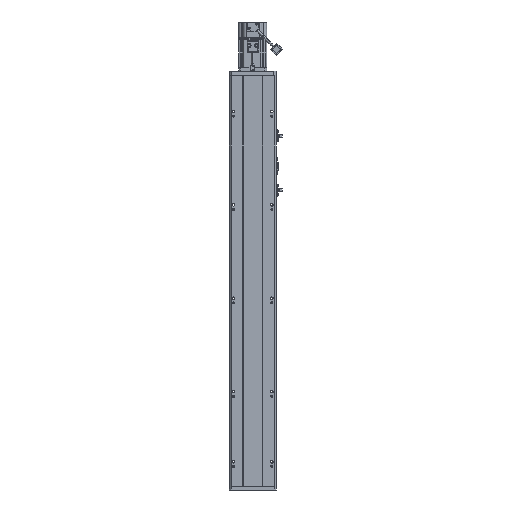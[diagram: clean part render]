
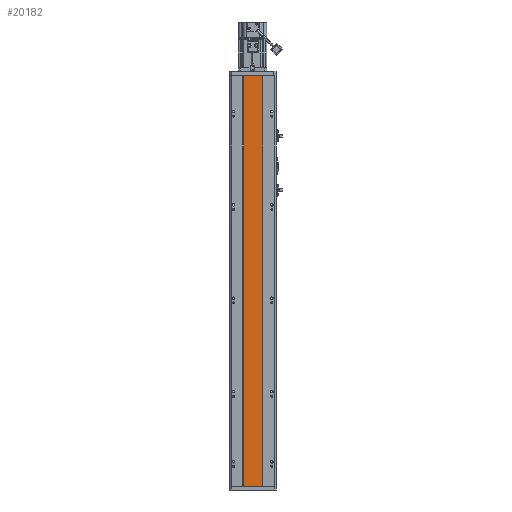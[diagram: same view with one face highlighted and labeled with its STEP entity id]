
A CAD part, front view. The second image highlights one B-rep face of the part: STEP entity #20182.
In plain terms, the highlighted planar face has unit normal (0, -1, 0).
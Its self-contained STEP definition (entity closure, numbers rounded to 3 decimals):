
#111 = CARTESIAN_POINT ( 'NONE',  ( 20., 0., 0. ) ) ;
#1273 = DIRECTION ( 'NONE',  ( 0., 0., 1. ) ) ;
#1688 = VECTOR ( 'NONE', #1273, 1000. ) ;
#7958 = DIRECTION ( 'NONE',  ( -1., 0., 0. ) ) ;
#8441 = DIRECTION ( 'NONE',  ( -1., 0., 0. ) ) ;
#12191 = CARTESIAN_POINT ( 'NONE',  ( 20., 0., 0. ) ) ;
#20182 = ADVANCED_FACE ( 'NONE', ( #34582 ), #30771, .F. ) ;
#22240 = VERTEX_POINT ( 'NONE', #91407 ) ;
#24189 = DIRECTION ( 'NONE',  ( -1., 0., 0. ) ) ;
#24594 = VECTOR ( 'NONE', #68178, 1000. ) ;
#24864 = VERTEX_POINT ( 'NONE', #76056 ) ;
#26778 = CARTESIAN_POINT ( 'NONE',  ( -20., 0., -878.5 ) ) ;
#28261 = ORIENTED_EDGE ( 'NONE', *, *, #36743, .F. ) ;
#30771 = PLANE ( 'NONE',  #46059 ) ;
#33771 = LINE ( 'NONE', #111, #71310 ) ;
#34187 = ORIENTED_EDGE ( 'NONE', *, *, #53576, .T. ) ;
#34582 = FACE_OUTER_BOUND ( 'NONE', #87344, .T. ) ;
#36743 = EDGE_CURVE ( 'NONE', #24864, #88160, #94971, .T. ) ;
#37475 = VECTOR ( 'NONE', #8441, 1000. ) ;
#38635 = CARTESIAN_POINT ( 'NONE',  ( 20., 0., -878.5 ) ) ;
#43861 = EDGE_CURVE ( 'NONE', #88160, #22240, #59805, .T. ) ;
#44544 = EDGE_CURVE ( 'NONE', #71278, #22240, #33771, .T. ) ;
#45687 = CARTESIAN_POINT ( 'NONE',  ( 20., 0., -878.5 ) ) ;
#46059 = AXIS2_PLACEMENT_3D ( 'NONE', #54117, #69112, #24189 ) ;
#46921 = CARTESIAN_POINT ( 'NONE',  ( -20., 0., -878.5 ) ) ;
#53576 = EDGE_CURVE ( 'NONE', #24864, #71278, #84423, .T. ) ;
#54117 = CARTESIAN_POINT ( 'NONE',  ( 20., 0., -878.5 ) ) ;
#59805 = LINE ( 'NONE', #46921, #1688 ) ;
#68178 = DIRECTION ( 'NONE',  ( 0., 0., 1. ) ) ;
#69112 = DIRECTION ( 'NONE',  ( 0., 1., 0. ) ) ;
#71278 = VERTEX_POINT ( 'NONE', #12191 ) ;
#71310 = VECTOR ( 'NONE', #7958, 1000. ) ;
#76056 = CARTESIAN_POINT ( 'NONE',  ( 20., 0., -878.5 ) ) ;
#84423 = LINE ( 'NONE', #45687, #24594 ) ;
#87344 = EDGE_LOOP ( 'NONE', ( #95254, #96596, #28261, #34187 ) ) ;
#88160 = VERTEX_POINT ( 'NONE', #26778 ) ;
#91407 = CARTESIAN_POINT ( 'NONE',  ( -20., 0., 0. ) ) ;
#94971 = LINE ( 'NONE', #38635, #37475 ) ;
#95254 = ORIENTED_EDGE ( 'NONE', *, *, #44544, .T. ) ;
#96596 = ORIENTED_EDGE ( 'NONE', *, *, #43861, .F. ) ;
